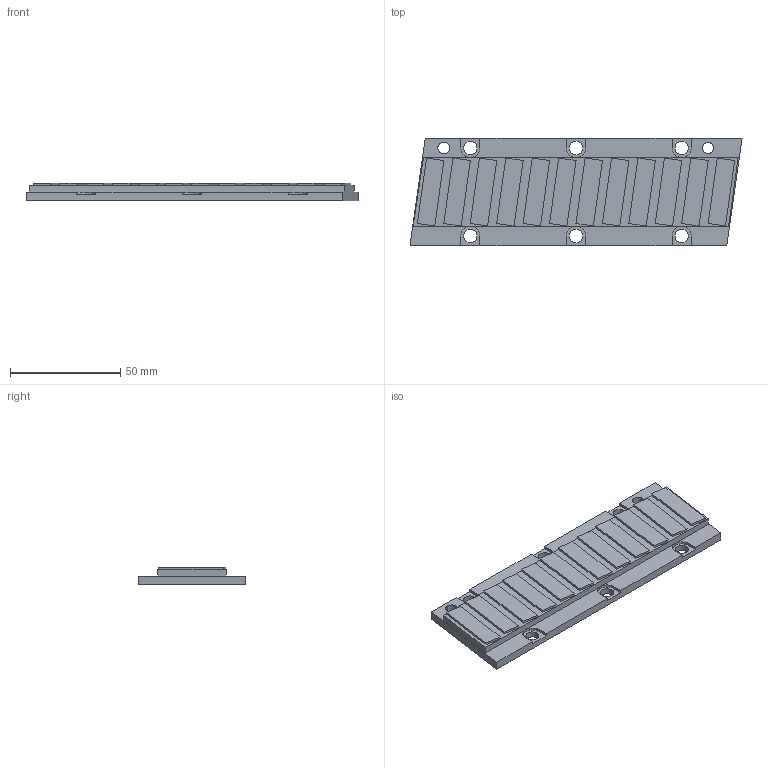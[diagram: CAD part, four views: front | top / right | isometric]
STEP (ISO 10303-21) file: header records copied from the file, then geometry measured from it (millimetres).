
FILE_DESCRIPTION (( 'STEP AP203' ), '1' );
FILE_NAME ('MP49-144.STEP', '2020-10-22T06:40:46', ( '' ), ( '' ), 'SwSTEP 2.0', 'SolidWorks 2018', '' );
FILE_SCHEMA (( 'CONFIG_CONTROL_DESIGN' ));
Length unit declared in the file: millimetre
Products named in the file (1): MP49-144
Bounding box: 150.74 x 49 x 8 mm (x, y, z)
Volume: 43320.5 mm3; surface area: 17727.6 mm2
Topology: 1 solids, 1 shells, 114 faces, 297 edges, 198 vertices
Faces by surface type: plane 91, cylinder 23
Entity records: 3576 total; most frequent: CARTESIAN_POINT 610, ORIENTED_EDGE 594, DIRECTION 573, EDGE_CURVE 297, LINE 251, VECTOR 251, VERTEX_POINT 198, AXIS2_PLACEMENT_3D 161
